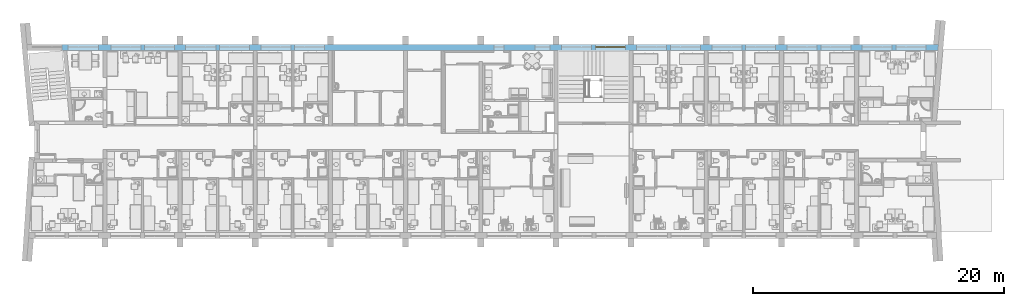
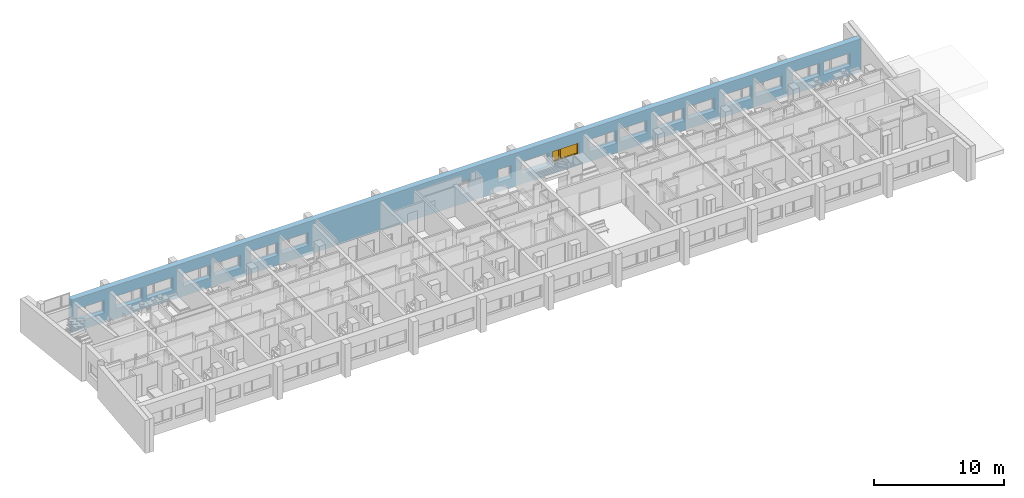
# One storey, part 23 of 172: 1 window, 19 openings, plus 1 element that does not belong to this part.
"""IFC2X3 building model written with IfcOpenShell, lengths in millimetres."""

import ifcopenshell
import ifcopenshell.guid

model = None  # the IFC model being written
_history = None  # IfcOwnerHistory: only IFC2X3 demands one
_inside = {}  # id of a spatial element -> (the spatial element, [elements in it])
_under = {}  # id of a project, library or spatial element -> (it, [spatial elements below it])
_declared = {}  # id of a project -> (the project, [libraries it declares])
_typed = {}  # id of a type object -> (the type object, [elements of that type])
_made_of = {}  # id of a material, layer set ... -> (it, [elements and type objects made of it])


def new_model(schema):
    """Start an empty IFC model of exactly this schema.

    Asked for "IFC4X3", IfcOpenShell would pick the latest addendum, in which some entities
    have other attributes; the version numbers below select the first issue.
    IFC2X3 requires an IfcOwnerHistory on every rooted entity: one is made here for all.
    """
    global model, _history
    if schema == "IFC4X3":
        model = ifcopenshell.file(schema_version=(4, 3, 0, 0))
    else:
        model = ifcopenshell.file(schema=schema)
    _inside.clear()
    _under.clear()
    _declared.clear()
    _typed.clear()
    _made_of.clear()
    _history = None
    if model.schema == "IFC2X3":
        org = make("IfcOrganization", Name="unknown")
        user = make(
            "IfcPersonAndOrganization",
            ThePerson=make("IfcPerson", FamilyName="unknown"),
            TheOrganization=org,
        )
        app = make(
            "IfcApplication",
            ApplicationDeveloper=org,
            Version="unknown",
            ApplicationFullName="unknown",
            ApplicationIdentifier="unknown",
        )
        _history = make(
            "IfcOwnerHistory",
            OwningUser=user,
            OwningApplication=app,
            ChangeAction="ADDED",
            CreationDate=0,
        )
    return model


def make(cls, **values):
    """One entity of the class cls with the attributes given. An attribute that is None is left unset."""
    return model.create_entity(
        cls, **{name: value for name, value in values.items() if value is not None}
    )


def entity(cls, *values):
    """Any entity or typed value of the class cls, its attributes in the order of the schema. None: left unset."""
    e = model.create_entity(cls)
    for i, value in enumerate(values):
        if value is not None:
            e[i] = value
    return e


def rooted(cls, **values):
    """An entity with a GlobalId (a new one), such as an element, a storey or a relation."""
    return make(cls, GlobalId=ifcopenshell.guid.new(), OwnerHistory=_history, **values)


def si_unit(unit_type, name, prefix=None):
    """IfcSIUnit, for example si_unit("LENGTHUNIT", "METRE", prefix="MILLI")."""
    return make("IfcSIUnit", UnitType=unit_type, Prefix=prefix, Name=name)


def converted_unit(unit_type, name, factor, base, dimensions=None, offset=None):
    """IfcConversionBasedUnit, such as the inch: factor (a typed value) times the base unit."""
    return make(
        "IfcConversionBasedUnit"
        if offset is None
        else "IfcConversionBasedUnitWithOffset",
        ConversionOffset=offset,
        Dimensions=None
        if dimensions is None
        else entity("IfcDimensionalExponents", *dimensions),
        UnitType=unit_type,
        Name=name,
        ConversionFactor=make(
            "IfcMeasureWithUnit", ValueComponent=factor, UnitComponent=base
        ),
    )


def money_unit(currency):
    """IfcMonetaryUnit."""
    return make("IfcMonetaryUnit", Currency=currency)


def assignment(units):
    """IfcUnitAssignment: the units of a project."""
    return None if units is None else make("IfcUnitAssignment", Units=units)


def point(xyz):
    """IfcCartesianPoint."""
    return None if xyz is None else make("IfcCartesianPoint", Coordinates=xyz)


def direction(xyz):
    """IfcDirection."""
    return None if xyz is None else make("IfcDirection", DirectionRatios=xyz)


def frame(location, z_axis=None, x_axis=None):
    """IfcAxis2Placement3D, a coordinate frame: its origin and axes. An axis left out is left unset."""
    return make(
        "IfcAxis2Placement3D",
        Location=point(location),
        Axis=direction(z_axis),
        RefDirection=direction(x_axis),
    )


def origin_with_axes():
    """The frame at (0, 0, 0) with the z axis (0, 0, 1) and the x axis (1, 0, 0) written out."""
    return frame((0.0, 0.0, 0.0), z_axis=(0.0, 0.0, 1.0), x_axis=(1.0, 0.0, 0.0))


def place(relative_to, where):
    """IfcLocalPlacement: puts the frame where relative to a parent placement (None: the world)."""
    return make(
        "IfcLocalPlacement", PlacementRelTo=relative_to, RelativePlacement=where
    )


def context(
    kind, dimensions, precision=None, world=None, true_north=None, identifier=None
):
    """IfcGeometricRepresentationContext, for example the 3D "Model" context."""
    return make(
        "IfcGeometricRepresentationContext",
        ContextIdentifier=identifier,
        ContextType=kind,
        CoordinateSpaceDimension=dimensions,
        Precision=precision,
        WorldCoordinateSystem=world,
        TrueNorth=true_north,
    )


def subcontext(parent, identifier, kind, view, scale=None):
    """IfcGeometricRepresentationSubContext, for example "Body" below "Model"."""
    return make(
        "IfcGeometricRepresentationSubContext",
        ContextIdentifier=identifier,
        ContextType=kind,
        ParentContext=parent,
        TargetScale=scale,
        TargetView=view,
    )


def project(units=None, contexts=None):
    """IfcProject with its units and contexts."""
    return rooted(
        "IfcProject",
        Name="project",
        RepresentationContexts=contexts,
        UnitsInContext=assignment(units),
    )


def spatial(cls, under=None, at=None, **own):
    """A site, building, storey or space (cls), placed at a placement, below another one or the project."""
    s = rooted(cls, ObjectPlacement=at, **own)
    if under is not None:
        _under.setdefault(under.id(), (under, []))[1].append(s)
    return s


def polyline(points):
    """IfcPolyline through the points."""
    return make("IfcPolyline", Points=[point(p) for p in points])


def outline(outer, holes=None, kind="AREA"):
    """IfcArbitraryClosedProfileDef: a profile drawn as a closed curve; with holes, ...WithVoids."""
    if holes is None:
        return make("IfcArbitraryClosedProfileDef", ProfileType=kind, OuterCurve=outer)
    return make(
        "IfcArbitraryProfileDefWithVoids",
        ProfileType=kind,
        OuterCurve=outer,
        InnerCurves=holes,
    )


def extrude(swept, where, along, depth):
    """IfcExtrudedAreaSolid: the profile swept, set in the frame where, extruded along a direction by depth."""
    return make(
        "IfcExtrudedAreaSolid",
        SweptArea=swept,
        Position=where,
        ExtrudedDirection=direction(along),
        Depth=depth,
    )


def faces_of(points, faces, orient=None, outer=None):
    """IfcFace entities. A face is a list of loops; a loop is a list of indices into points, from 0.

    orient and outer hold one flag for each loop. By default every Orientation is true, the
    first loop of a face is its IfcFaceOuterBound and the others are IfcFaceBound.
    """
    made = []
    for i, loops in enumerate(faces):
        bounds = []
        for j, loop in enumerate(loops):
            is_outer = j == 0 if outer is None else outer[i][j]
            bounds.append(
                make(
                    "IfcFaceOuterBound" if is_outer else "IfcFaceBound",
                    Bound=make("IfcPolyLoop", Polygon=[points[k] for k in loop]),
                    Orientation=True if orient is None else orient[i][j],
                )
            )
        made.append(make("IfcFace", Bounds=bounds))
    return made


def open_shell(faces, orient=None, outer=None):
    """The faces of one IfcOpenShell. surface_model builds it on its shared points."""
    return ("IfcOpenShell", faces, orient, outer)


def faceted_brep(points, faces, orient=None, outer=None, voids=None):
    """IfcFacetedBrep: a solid bounded by flat faces; with voids (closed shells), ...WithVoids."""
    shared = [point(p) for p in points]
    hull = make("IfcClosedShell", CfsFaces=faces_of(shared, faces, orient, outer))
    if voids is None:
        return make("IfcFacetedBrep", Outer=hull)
    return make(
        "IfcFacetedBrepWithVoids",
        Outer=hull,
        Voids=[
            make(cls, CfsFaces=faces_of(shared, fs, o, b)) for cls, fs, o, b in voids
        ],
    )


def surface_model(cls, points, shells):
    """IfcFaceBasedSurfaceModel or IfcShellBasedSurfaceModel (cls): surfaces that need not close."""
    shared = [point(p) for p in points]
    made = [make(c, CfsFaces=faces_of(shared, fs, o, b)) for c, fs, o, b in shells]
    if cls == "IfcFaceBasedSurfaceModel":
        return make(cls, FbsmFaces=made)
    return make(cls, SbsmBoundary=made)


def shape(context_of_items, identifier, shape_type, items):
    """IfcShapeRepresentation: the items that make up one representation, for example the "Body"."""
    return make(
        "IfcShapeRepresentation",
        ContextOfItems=context_of_items,
        RepresentationIdentifier=identifier,
        RepresentationType=shape_type,
        Items=items,
    )


def source(mapping_origin, context_of_items, identifier, shape_type, items):
    """IfcRepresentationMap: a shape defined once, which mapped items show again and again."""
    return make(
        "IfcRepresentationMap",
        MappingOrigin=mapping_origin,
        MappedRepresentation=shape(context_of_items, identifier, shape_type, items),
    )


def transform(
    local_origin,
    x_axis=None,
    y_axis=None,
    z_axis=None,
    scale=None,
    scale2=None,
    scale3=None,
    uniform=True,
):
    """IfcCartesianTransformationOperator3D, or its non-uniform kind. x_axis, y_axis, z_axis: its Axis1, 2, 3."""
    if uniform:
        return make(
            "IfcCartesianTransformationOperator3D",
            Axis1=direction(x_axis),
            Axis2=direction(y_axis),
            LocalOrigin=point(local_origin),
            Scale=scale,
            Axis3=direction(z_axis),
        )
    return make(
        "IfcCartesianTransformationOperator3DnonUniform",
        Axis1=direction(x_axis),
        Axis2=direction(y_axis),
        LocalOrigin=point(local_origin),
        Scale=scale,
        Axis3=direction(z_axis),
        Scale2=scale2,
        Scale3=scale3,
    )


def mapped(mapping_source, mapping_target):
    """IfcMappedItem: shows the shape of a source again, moved by a transform."""
    return make(
        "IfcMappedItem", MappingSource=mapping_source, MappingTarget=mapping_target
    )


def material(Name=None, Category=None):
    """IfcMaterial."""
    return make("IfcMaterial", Name=Name, Category=Category)


def material_list(materials):
    """IfcMaterialList."""
    return make("IfcMaterialList", Materials=materials)


def layer(
    of_material, thickness, ventilated=None, Name=None, Category=None, Priority=None
):
    """IfcMaterialLayer: one layer of a wall or slab, of a material (None: an air gap)."""
    return make(
        "IfcMaterialLayer",
        Material=of_material,
        LayerThickness=thickness,
        IsVentilated=ventilated,
        Name=Name,
        Category=Category,
        Priority=Priority,
    )


def layer_set(layers, Name=None):
    """IfcMaterialLayerSet."""
    return make("IfcMaterialLayerSet", MaterialLayers=layers, LayerSetName=Name)


def layer_usage(for_layer_set, set_direction, sense, offset, extent=None):
    """IfcMaterialLayerSetUsage: how a layer set lies in its element."""
    return make(
        "IfcMaterialLayerSetUsage",
        ForLayerSet=for_layer_set,
        LayerSetDirection=set_direction,
        DirectionSense=sense,
        OffsetFromReferenceLine=offset,
        ReferenceExtent=extent,
    )


def made_of(thing, what):
    """Note that an element or type object is made of a material, layer set ...; save() writes the relation."""
    if what is not None:
        _made_of.setdefault(what.id(), (what, []))[1].append(thing)
    return thing


def type_object(cls, material=None, **own):
    """A type object (cls), such as IfcWallType, which elements share."""
    return made_of(rooted(cls, **own), material)


def element(
    cls,
    number,
    at=None,
    inside=None,
    cuts=None,
    type_object=None,
    material=None,
    context=None,
    identifier="Body",
    shape_type=None,
    held_by="IfcProductDefinitionShape",
    body=None,
    shapes=None,
    **own,
):
    """One element of the class cls, such as IfcWall. Its Tag is "e" and its number.

    at: its placement. inside: the storey or other place that contains it. cuts: it is an
    opening in that element (IfcRelVoidsElement). A single representation is given by context,
    identifier, shape_type and body (its items); several are given by shapes. held_by: the class
    of the entity that holds the representations. save() writes the other relations.
    """
    e = rooted(cls, Tag="e%d" % number, ObjectPlacement=at, **own)
    if body is not None:
        shapes = [shape(context, identifier, shape_type, body)]
    if shapes is not None:
        e.Representation = make(held_by, Representations=shapes)
    if inside is not None:
        _inside.setdefault(inside.id(), (inside, []))[1].append(e)
    if cuts is not None:
        rooted(
            "IfcRelVoidsElement", RelatingBuildingElement=cuts, RelatedOpeningElement=e
        )
    if type_object is not None:
        _typed.setdefault(type_object.id(), (type_object, []))[1].append(e)
    return made_of(e, material)


def fill(opening, filler):
    """IfcRelFillsElement: the door or window that sits in an opening."""
    return rooted(
        "IfcRelFillsElement",
        RelatingOpeningElement=opening,
        RelatedBuildingElement=filler,
    )


def aggregate(whole, parts):
    """IfcRelAggregates: a whole, such as a stair, and the parts it consists of."""
    return rooted("IfcRelAggregates", RelatingObject=whole, RelatedObjects=parts)


def save(model, path):
    """Write the relations noted so far, then the file.

    IfcRelAggregates (storeys below a building ...), IfcRelContainedInSpatialStructure (elements
    in a storey), IfcRelDefinesByType, IfcRelAssociatesMaterial and IfcRelDeclares: one each for
    every whole, place, type object, material and project.
    """
    for whole, parts in _under.values():
        aggregate(whole, parts)
    for where, things in _inside.values():
        rooted(
            "IfcRelContainedInSpatialStructure",
            RelatedElements=things,
            RelatingStructure=where,
        )
    for kind, things in _typed.values():
        rooted("IfcRelDefinesByType", RelatedObjects=things, RelatingType=kind)
    for what, things in _made_of.values():
        rooted("IfcRelAssociatesMaterial", RelatedObjects=things, RelatingMaterial=what)
    for by, libraries in _declared.values():
        rooted("IfcRelDeclares", RelatingContext=by, RelatedDefinitions=libraries)
    model.write(path)


model = new_model("IFC2X3")

# Units and contexts
model_context = context("Model", 3, precision=1e-05, world=origin_with_axes(), true_north=direction((0.0, 1.0)))
body_context = subcontext(model_context, "Body", "Model", "MODEL_VIEW")
ifc_project = project(units=[si_unit("LENGTHUNIT", "METRE", prefix="MILLI"), si_unit("AREAUNIT", "SQUARE_METRE"), si_unit("VOLUMEUNIT", "CUBIC_METRE"), converted_unit("PLANEANGLEUNIT", "DEGREE", entity("IfcPlaneAngleMeasure", 0.0174532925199), si_unit("PLANEANGLEUNIT", "RADIAN"), dimensions=[0, 0, 0, 0, 0, 0, 0]), si_unit("SOLIDANGLEUNIT", "STERADIAN"), money_unit("USD"), converted_unit("TIMEUNIT", "Year", entity("IfcTimeMeasure", 31556926.0), si_unit("TIMEUNIT", "SECOND"), dimensions=[0, 0, 0, 0, 0, 0, 0]), si_unit("MASSUNIT", "GRAM"), si_unit("THERMODYNAMICTEMPERATUREUNIT", "DEGREE_CELSIUS"), si_unit("LUMINOUSINTENSITYUNIT", "LUMEN")], contexts=[model_context])

# Site, building, storey
site_placement = place(None, origin_with_axes())
site = spatial("IfcSite", under=ifc_project, at=site_placement, Name="Site", CompositionType="ELEMENT")
building_placement = place(site_placement, origin_with_axes())
building = spatial("IfcBuilding", under=site, at=building_placement, Name="Building", CompositionType="ELEMENT")
storey_placement = place(building_placement, frame((0.0, 0.0, 3200.0), z_axis=(0.0, 0.0, 1.0), x_axis=(1.0, 0.0, 0.0)))
storey = spatial("IfcBuildingStorey", under=building, at=storey_placement, Name="3KORRUS", CompositionType="ELEMENT", Elevation=3200.0)

# Wall, openings, window
ifc_material_1 = material(Name="Olemasolevad seinad tellis, uus viimistlus")
ifc_layer = layer(ifc_material_1, 500.0, ventilated="UNKNOWN")
ifc_layer_set = layer_set([ifc_layer], Name="Olemasolevad seinad tellis, uus viimistlus 500")
ifc_layer_usage = layer_usage(ifc_layer_set, "AXIS2", "POSITIVE", -100.0)
wall_type = type_object("IfcWallType", Name="Olemasolevad seinad tellis, uus viimistlus 500", PredefinedType="NOTDEFINED")
wall_placement = place(storey_placement, frame((-51569.3388124, -5039.6041088, 0.0), z_axis=(0.0, 0.0, 1.0), x_axis=(1.0, 0.0, 0.0)))
wall = element("IfcWallStandardCase", 1, at=wall_placement, inside=storey, type_object=wall_type, material=ifc_layer_usage, Name="VS1", ObjectType="VS1", context=body_context, shape_type="SweptSolid", body=[
    extrude(outline(polyline([(0.0, -100.0), (69914.7195482, -100.0), (69959.6995146, 400.0), (0.0, 400.0), (0.0, -100.0)])), origin_with_axes(), (0.0, 0.0, 1.0), 3100.0),
])
opening_1_placement = place(wall_placement, frame((34879.0421091, 0.0, 900.0), z_axis=(0.0, 0.0, 1.0), x_axis=(1.0, 0.0, 0.0)))
element("IfcOpeningElement", 2, at=opening_1_placement, cuts=wall, Name="WD - 001", context=body_context, shape_type="SweptSolid", body=[
    extrude(outline(polyline([(-400.0, 1200.0), (-400.0, 0.0), (400.0, 0.0), (400.0, 1200.0), (-400.0, 1200.0)])), frame((0.0, 200.0, 0.0), z_axis=(0.0, -1.0, 0.0), x_axis=(1.0, 0.0, 0.0)), (0.0, 0.0, 1.0), 800.0),
    extrude(outline(polyline([(-400.0, 0.0), (-400.0, -1200.0), (400.0, -1200.0), (400.0, 0.0), (-400.0, 0.0)])), frame((0.0, 200.0, 0.0), z_axis=(0.0, 1.0, 0.0), x_axis=(1.0, 0.0, 0.0)), (0.0, 0.0, 1.0), 700.0),
])
opening_2_placement = place(wall_placement, frame((38352.6323068, 0.0, 900.0), z_axis=(0.0, 0.0, 1.0), x_axis=(1.0, 0.0, 0.0)))
element("IfcOpeningElement", 3, at=opening_2_placement, cuts=wall, Name="A3", context=body_context, shape_type="SweptSolid", body=[
    extrude(outline(polyline([(-600.0, 1200.0), (-600.0, 0.0), (600.0, 0.0), (600.0, 1200.0), (-600.0, 1200.0)])), frame((0.0, 200.0, 0.0), z_axis=(0.0, -1.0, 0.0), x_axis=(1.0, 0.0, 0.0)), (0.0, 0.0, 1.0), 800.0),
    extrude(outline(polyline([(-600.0, 0.0), (-600.0, -1200.0), (600.0, -1200.0), (600.0, 0.0), (-600.0, 0.0)])), frame((0.0, 200.0, 0.0), z_axis=(0.0, 1.0, 0.0), x_axis=(1.0, 0.0, 0.0)), (0.0, 0.0, 1.0), 700.0),
])
opening_3_placement = place(wall_placement, frame((1700.0, 0.0, 900.0), z_axis=(0.0, 0.0, 1.0), x_axis=(1.0, 0.0, 0.0)))
element("IfcOpeningElement", 4, at=opening_3_placement, cuts=wall, Name="A1", context=body_context, shape_type="SweptSolid", body=[
    extrude(outline(polyline([(1200.0, 1200.0), (-1200.0, 1200.0), (-1200.0, 0.0), (1200.0, 0.0), (1200.0, 1200.0)])), frame((0.0, 200.0, 0.0), z_axis=(0.0, -1.0, 0.0), x_axis=(1.0, 0.0, 0.0)), (0.0, 0.0, 1.0), 800.0),
    extrude(outline(polyline([(1200.0, 0.0), (-1200.0, 0.0), (-1200.0, -1200.0), (1200.0, -1200.0), (1200.0, 0.0)])), frame((0.0, 200.0, 0.0), z_axis=(0.0, 1.0, 0.0), x_axis=(1.0, 0.0, 0.0)), (0.0, 0.0, 1.0), 700.0),
])
opening_4_placement = place(wall_placement, frame((7795.91085613, 0.0, 900.0), z_axis=(0.0, 0.0, 1.0), x_axis=(1.0, 0.0, 0.0)))
element("IfcOpeningElement", 5, at=opening_4_placement, cuts=wall, Name="A1", context=body_context, shape_type="SweptSolid", body=[
    extrude(outline(polyline([(1200.0, 1200.0), (-1200.0, 1200.0), (-1200.0, 0.0), (1200.0, 0.0), (1200.0, 1200.0)])), frame((0.0, 200.0, 0.0), z_axis=(0.0, -1.0, 0.0), x_axis=(1.0, 0.0, 0.0)), (0.0, 0.0, 1.0), 800.0),
    extrude(outline(polyline([(1200.0, 0.0), (-1200.0, 0.0), (-1200.0, -1200.0), (1200.0, -1200.0), (1200.0, 0.0)])), frame((0.0, 200.0, 0.0), z_axis=(0.0, 1.0, 0.0), x_axis=(1.0, 0.0, 0.0)), (0.0, 0.0, 1.0), 700.0),
])
opening_5_placement = place(wall_placement, frame((5095.91085613, 0.0, 900.0), z_axis=(0.0, 0.0, 1.0), x_axis=(1.0, 0.0, 0.0)))
element("IfcOpeningElement", 6, at=opening_5_placement, cuts=wall, Name="A2", context=body_context, shape_type="SweptSolid", body=[
    extrude(outline(polyline([(-1200.0, 1200.0), (-1200.0, 0.0), (1200.0, 0.0), (1200.0, 1200.0), (-1200.0, 1200.0)])), frame((0.0, 200.0, 0.0), z_axis=(0.0, -1.0, 0.0), x_axis=(1.0, 0.0, 0.0)), (0.0, 0.0, 1.0), 800.0),
    extrude(outline(polyline([(-1200.0, 0.0), (-1200.0, -1200.0), (1200.0, -1200.0), (1200.0, 0.0), (-1200.0, 0.0)])), frame((0.0, 200.0, 0.0), z_axis=(0.0, 1.0, 0.0), x_axis=(1.0, 0.0, 0.0)), (0.0, 0.0, 1.0), 700.0),
])
opening_6_placement = place(wall_placement, frame((13779.0421091, 0.0, 900.0), z_axis=(0.0, 0.0, 1.0), x_axis=(1.0, 0.0, 0.0)))
element("IfcOpeningElement", 7, at=opening_6_placement, cuts=wall, Name="A1", context=body_context, shape_type="SweptSolid", body=[
    extrude(outline(polyline([(1200.0, 1200.0), (-1200.0, 1200.0), (-1200.0, 0.0), (1200.0, 0.0), (1200.0, 1200.0)])), frame((0.0, 200.0, 0.0), z_axis=(0.0, -1.0, 0.0), x_axis=(1.0, 0.0, 0.0)), (0.0, 0.0, 1.0), 800.0),
    extrude(outline(polyline([(1200.0, 0.0), (-1200.0, 0.0), (-1200.0, -1200.0), (1200.0, -1200.0), (1200.0, 0.0)])), frame((0.0, 200.0, 0.0), z_axis=(0.0, 1.0, 0.0), x_axis=(1.0, 0.0, 0.0)), (0.0, 0.0, 1.0), 700.0),
])
opening_7_placement = place(wall_placement, frame((11079.0421091, 0.0, 900.0), z_axis=(0.0, 0.0, 1.0), x_axis=(1.0, 0.0, 0.0)))
element("IfcOpeningElement", 8, at=opening_7_placement, cuts=wall, Name="A2", context=body_context, shape_type="SweptSolid", body=[
    extrude(outline(polyline([(-1200.0, 1200.0), (-1200.0, 0.0), (1200.0, 0.0), (1200.0, 1200.0), (-1200.0, 1200.0)])), frame((0.0, 200.0, 0.0), z_axis=(0.0, -1.0, 0.0), x_axis=(1.0, 0.0, 0.0)), (0.0, 0.0, 1.0), 800.0),
    extrude(outline(polyline([(-1200.0, 0.0), (-1200.0, -1200.0), (1200.0, -1200.0), (1200.0, 0.0), (-1200.0, 0.0)])), frame((0.0, 200.0, 0.0), z_axis=(0.0, 1.0, 0.0), x_axis=(1.0, 0.0, 0.0)), (0.0, 0.0, 1.0), 700.0),
])
opening_8_placement = place(wall_placement, frame((43769.0421091, 0.0, 900.0), z_axis=(0.0, 0.0, 1.0), x_axis=(1.0, 0.0, 0.0)))
opening_8 = element("IfcOpeningElement", 9, at=opening_8_placement, cuts=wall, Name="A1", context=body_context, shape_type="SweptSolid", body=[
    extrude(outline(polyline([(1200.0, 1200.0), (-1200.0, 1200.0), (-1200.0, 0.0), (1200.0, 0.0), (1200.0, 1200.0)])), frame((0.0, 200.0, 0.0), z_axis=(0.0, -1.0, 0.0), x_axis=(1.0, 0.0, 0.0)), (0.0, 0.0, 1.0), 800.0),
    extrude(outline(polyline([(1200.0, 0.0), (-1200.0, 0.0), (-1200.0, -1200.0), (1200.0, -1200.0), (1200.0, 0.0)])), frame((0.0, 200.0, 0.0), z_axis=(0.0, 1.0, 0.0), x_axis=(1.0, 0.0, 0.0)), (0.0, 0.0, 1.0), 700.0),
])
opening_9_placement = place(wall_placement, frame((41069.0421091, 0.0, 900.0), z_axis=(0.0, 0.0, 1.0), x_axis=(1.0, 0.0, 0.0)))
element("IfcOpeningElement", 10, at=opening_9_placement, cuts=wall, Name="A2", context=body_context, shape_type="SweptSolid", body=[
    extrude(outline(polyline([(-1200.0, 1200.0), (-1200.0, 0.0), (1200.0, 0.0), (1200.0, 1200.0), (-1200.0, 1200.0)])), frame((0.0, 200.0, 0.0), z_axis=(0.0, -1.0, 0.0), x_axis=(1.0, 0.0, 0.0)), (0.0, 0.0, 1.0), 800.0),
    extrude(outline(polyline([(-1200.0, 0.0), (-1200.0, -1200.0), (1200.0, -1200.0), (1200.0, 0.0), (-1200.0, 0.0)])), frame((0.0, 200.0, 0.0), z_axis=(0.0, 1.0, 0.0), x_axis=(1.0, 0.0, 0.0)), (0.0, 0.0, 1.0), 700.0),
])
opening_10_placement = place(wall_placement, frame((49769.0421091, 0.0, 900.0), z_axis=(0.0, 0.0, 1.0), x_axis=(1.0, 0.0, 0.0)))
element("IfcOpeningElement", 11, at=opening_10_placement, cuts=wall, Name="A1", context=body_context, shape_type="SweptSolid", body=[
    extrude(outline(polyline([(1200.0, 1200.0), (-1200.0, 1200.0), (-1200.0, 0.0), (1200.0, 0.0), (1200.0, 1200.0)])), frame((0.0, 200.0, 0.0), z_axis=(0.0, -1.0, 0.0), x_axis=(1.0, 0.0, 0.0)), (0.0, 0.0, 1.0), 800.0),
    extrude(outline(polyline([(1200.0, 0.0), (-1200.0, 0.0), (-1200.0, -1200.0), (1200.0, -1200.0), (1200.0, 0.0)])), frame((0.0, 200.0, 0.0), z_axis=(0.0, 1.0, 0.0), x_axis=(1.0, 0.0, 0.0)), (0.0, 0.0, 1.0), 700.0),
])
opening_11_placement = place(wall_placement, frame((47069.0421091, 0.0, 900.0), z_axis=(0.0, 0.0, 1.0), x_axis=(1.0, 0.0, 0.0)))
element("IfcOpeningElement", 12, at=opening_11_placement, cuts=wall, Name="A2", context=body_context, shape_type="SweptSolid", body=[
    extrude(outline(polyline([(-1200.0, 1200.0), (-1200.0, 0.0), (1200.0, 0.0), (1200.0, 1200.0), (-1200.0, 1200.0)])), frame((0.0, 200.0, 0.0), z_axis=(0.0, -1.0, 0.0), x_axis=(1.0, 0.0, 0.0)), (0.0, 0.0, 1.0), 800.0),
    extrude(outline(polyline([(-1200.0, 0.0), (-1200.0, -1200.0), (1200.0, -1200.0), (1200.0, 0.0), (-1200.0, 0.0)])), frame((0.0, 200.0, 0.0), z_axis=(0.0, 1.0, 0.0), x_axis=(1.0, 0.0, 0.0)), (0.0, 0.0, 1.0), 700.0),
])
opening_12_placement = place(wall_placement, frame((55769.0421091, 0.0, 900.0), z_axis=(0.0, 0.0, 1.0), x_axis=(1.0, 0.0, 0.0)))
element("IfcOpeningElement", 13, at=opening_12_placement, cuts=wall, Name="A1", context=body_context, shape_type="SweptSolid", body=[
    extrude(outline(polyline([(1200.0, 1200.0), (-1200.0, 1200.0), (-1200.0, 0.0), (1200.0, 0.0), (1200.0, 1200.0)])), frame((0.0, 200.0, 0.0), z_axis=(0.0, -1.0, 0.0), x_axis=(1.0, 0.0, 0.0)), (0.0, 0.0, 1.0), 800.0),
    extrude(outline(polyline([(1200.0, 0.0), (-1200.0, 0.0), (-1200.0, -1200.0), (1200.0, -1200.0), (1200.0, 0.0)])), frame((0.0, 200.0, 0.0), z_axis=(0.0, 1.0, 0.0), x_axis=(1.0, 0.0, 0.0)), (0.0, 0.0, 1.0), 700.0),
])
opening_13_placement = place(wall_placement, frame((53069.0421091, 0.0, 900.0), z_axis=(0.0, 0.0, 1.0), x_axis=(1.0, 0.0, 0.0)))
element("IfcOpeningElement", 14, at=opening_13_placement, cuts=wall, Name="A2", context=body_context, shape_type="SweptSolid", body=[
    extrude(outline(polyline([(-1200.0, 1200.0), (-1200.0, 0.0), (1200.0, 0.0), (1200.0, 1200.0), (-1200.0, 1200.0)])), frame((0.0, 200.0, 0.0), z_axis=(0.0, -1.0, 0.0), x_axis=(1.0, 0.0, 0.0)), (0.0, 0.0, 1.0), 800.0),
    extrude(outline(polyline([(-1200.0, 0.0), (-1200.0, -1200.0), (1200.0, -1200.0), (1200.0, 0.0), (-1200.0, 0.0)])), frame((0.0, 200.0, 0.0), z_axis=(0.0, 1.0, 0.0), x_axis=(1.0, 0.0, 0.0)), (0.0, 0.0, 1.0), 700.0),
])
opening_14_placement = place(wall_placement, frame((61769.0421091, 0.0, 900.0), z_axis=(0.0, 0.0, 1.0), x_axis=(1.0, 0.0, 0.0)))
element("IfcOpeningElement", 15, at=opening_14_placement, cuts=wall, Name="A1", context=body_context, shape_type="SweptSolid", body=[
    extrude(outline(polyline([(1200.0, 1200.0), (-1200.0, 1200.0), (-1200.0, 0.0), (1200.0, 0.0), (1200.0, 1200.0)])), frame((0.0, 200.0, 0.0), z_axis=(0.0, -1.0, 0.0), x_axis=(1.0, 0.0, 0.0)), (0.0, 0.0, 1.0), 800.0),
    extrude(outline(polyline([(1200.0, 0.0), (-1200.0, 0.0), (-1200.0, -1200.0), (1200.0, -1200.0), (1200.0, 0.0)])), frame((0.0, 200.0, 0.0), z_axis=(0.0, 1.0, 0.0), x_axis=(1.0, 0.0, 0.0)), (0.0, 0.0, 1.0), 700.0),
])
opening_15_placement = place(wall_placement, frame((59069.0421091, 0.0, 900.0), z_axis=(0.0, 0.0, 1.0), x_axis=(1.0, 0.0, 0.0)))
element("IfcOpeningElement", 16, at=opening_15_placement, cuts=wall, Name="A2", context=body_context, shape_type="SweptSolid", body=[
    extrude(outline(polyline([(-1200.0, 1200.0), (-1200.0, 0.0), (1200.0, 0.0), (1200.0, 1200.0), (-1200.0, 1200.0)])), frame((0.0, 200.0, 0.0), z_axis=(0.0, -1.0, 0.0), x_axis=(1.0, 0.0, 0.0)), (0.0, 0.0, 1.0), 800.0),
    extrude(outline(polyline([(-1200.0, 0.0), (-1200.0, -1200.0), (1200.0, -1200.0), (1200.0, 0.0), (-1200.0, 0.0)])), frame((0.0, 200.0, 0.0), z_axis=(0.0, 1.0, 0.0), x_axis=(1.0, 0.0, 0.0)), (0.0, 0.0, 1.0), 700.0),
])
opening_16_placement = place(wall_placement, frame((67773.3244043, 0.0, 900.0), z_axis=(0.0, 0.0, 1.0), x_axis=(1.0, 0.0, 0.0)))
element("IfcOpeningElement", 17, at=opening_16_placement, cuts=wall, Name="A1", context=body_context, shape_type="SweptSolid", body=[
    extrude(outline(polyline([(1200.0, 1200.0), (-1200.0, 1200.0), (-1200.0, 0.0), (1200.0, 0.0), (1200.0, 1200.0)])), frame((0.0, 200.0, 0.0), z_axis=(0.0, -1.0, 0.0), x_axis=(1.0, 0.0, 0.0)), (0.0, 0.0, 1.0), 800.0),
    extrude(outline(polyline([(1200.0, 0.0), (-1200.0, 0.0), (-1200.0, -1200.0), (1200.0, -1200.0), (1200.0, 0.0)])), frame((0.0, 200.0, 0.0), z_axis=(0.0, 1.0, 0.0), x_axis=(1.0, 0.0, 0.0)), (0.0, 0.0, 1.0), 700.0),
])
opening_17_placement = place(wall_placement, frame((65073.3244043, 0.0, 900.0), z_axis=(0.0, 0.0, 1.0), x_axis=(1.0, 0.0, 0.0)))
element("IfcOpeningElement", 18, at=opening_17_placement, cuts=wall, Name="A2", context=body_context, shape_type="SweptSolid", body=[
    extrude(outline(polyline([(-1200.0, 1200.0), (-1200.0, 0.0), (1200.0, 0.0), (1200.0, 1200.0), (-1200.0, 1200.0)])), frame((0.0, 200.0, 0.0), z_axis=(0.0, -1.0, 0.0), x_axis=(1.0, 0.0, 0.0)), (0.0, 0.0, 1.0), 800.0),
    extrude(outline(polyline([(-1200.0, 0.0), (-1200.0, -1200.0), (1200.0, -1200.0), (1200.0, 0.0), (-1200.0, 0.0)])), frame((0.0, 200.0, 0.0), z_axis=(0.0, 1.0, 0.0), x_axis=(1.0, 0.0, 0.0)), (0.0, 0.0, 1.0), 700.0),
])
opening_18_placement = place(wall_placement, frame((19767.4765851, 0.0, 900.0), z_axis=(0.0, 0.0, 1.0), x_axis=(1.0, 0.0, 0.0)))
element("IfcOpeningElement", 19, at=opening_18_placement, cuts=wall, Name="A1", context=body_context, shape_type="SweptSolid", body=[
    extrude(outline(polyline([(1200.0, 1200.0), (-1200.0, 1200.0), (-1200.0, 0.0), (1200.0, 0.0), (1200.0, 1200.0)])), frame((0.0, 200.0, 0.0), z_axis=(0.0, -1.0, 0.0), x_axis=(1.0, 0.0, 0.0)), (0.0, 0.0, 1.0), 800.0),
    extrude(outline(polyline([(1200.0, 0.0), (-1200.0, 0.0), (-1200.0, -1200.0), (1200.0, -1200.0), (1200.0, 0.0)])), frame((0.0, 200.0, 0.0), z_axis=(0.0, 1.0, 0.0), x_axis=(1.0, 0.0, 0.0)), (0.0, 0.0, 1.0), 700.0),
])
opening_19_placement = place(wall_placement, frame((17067.4765851, 0.0, 900.0), z_axis=(0.0, 0.0, 1.0), x_axis=(1.0, 0.0, 0.0)))
element("IfcOpeningElement", 20, at=opening_19_placement, cuts=wall, Name="A2", context=body_context, shape_type="SweptSolid", body=[
    extrude(outline(polyline([(-1200.0, 1200.0), (-1200.0, 0.0), (1200.0, 0.0), (1200.0, 1200.0), (-1200.0, 1200.0)])), frame((0.0, 200.0, 0.0), z_axis=(0.0, -1.0, 0.0), x_axis=(1.0, 0.0, 0.0)), (0.0, 0.0, 1.0), 800.0),
    extrude(outline(polyline([(-1200.0, 0.0), (-1200.0, -1200.0), (1200.0, -1200.0), (1200.0, 0.0), (-1200.0, 0.0)])), frame((0.0, 200.0, 0.0), z_axis=(0.0, 1.0, 0.0), x_axis=(1.0, 0.0, 0.0)), (0.0, 0.0, 1.0), 700.0),
])
ifc_material_2 = material(Name="Background")
ifc_material_list = material_list([ifc_material_2])
window_style = type_object("IfcWindowStyle", Name="Double Window 19", ConstructionType="NOTDEFINED", OperationType="DOUBLE_PANEL_VERTICAL", ParameterTakesPrecedence=False, Sizeable=False)
shared_shape = source(origin_with_axes(), body_context, "Body", "SurfaceModel", [
    faceted_brep([(1175.0, -200.0, 1150.0), (1175.0, -225.0, 1150.0), (1150.0, -225.0, 1150.0), (1150.0, -250.0, 1150.0), (1200.0, -250.0, 1150.0), (1200.0, -200.0, 1150.0), (1175.0, -200.0, 50.0), (1175.0, -225.0, 50.0), (1150.0, -225.0, 50.0), (1150.0, -250.0, 50.0), (1200.0, -250.0, 50.0), (1200.0, -200.0, 50.0)], [[[0, 1, 2, 3, 4, 5]], [[1, 0, 6, 7]], [[8, 2, 1, 7]], [[2, 8, 9, 3]], [[4, 3, 9, 10]], [[5, 4, 10, 11]], [[6, 0, 5, 11]], [[7, 6, 11, 10, 9, 8]]]),
    faceted_brep([(-1150.0, -225.0, 1150.0), (-1175.0, -225.0, 1150.0), (-1175.0, -200.0, 1150.0), (-1200.0, -200.0, 1150.0), (-1200.0, -250.0, 1150.0), (-1150.0, -250.0, 1150.0), (-1150.0, -225.0, 50.0), (-1175.0, -225.0, 50.0), (-1175.0, -200.0, 50.0), (-1200.0, -200.0, 50.0), (-1200.0, -250.0, 50.0), (-1150.0, -250.0, 50.0)], [[[0, 1, 2, 3, 4, 5]], [[1, 0, 6, 7]], [[8, 2, 1, 7]], [[2, 8, 9, 3]], [[9, 10, 4, 3]], [[10, 11, 5, 4]], [[6, 0, 5, 11]], [[7, 6, 11, 10, 9, 8]]]),
    faceted_brep([(-350.0, -225.0, 1150.0), (-375.0, -225.0, 1150.0), (-375.0, -200.0, 1150.0), (-425.0, -200.0, 1150.0), (-425.0, -225.0, 1150.0), (-450.0, -225.0, 1150.0), (-450.0, -250.0, 1150.0), (-350.0, -250.0, 1150.0), (-350.0, -225.0, 50.0), (-375.0, -225.0, 50.0), (-375.0, -200.0, 50.0), (-425.0, -200.0, 50.0), (-425.0, -225.0, 50.0), (-450.0, -225.0, 50.0), (-450.0, -250.0, 50.0), (-350.0, -250.0, 50.0)], [[[0, 1, 2, 3, 4, 5, 6, 7]], [[1, 0, 8, 9]], [[10, 2, 1, 9]], [[2, 10, 11, 3]], [[4, 3, 11, 12]], [[13, 5, 4, 12]], [[5, 13, 14, 6]], [[14, 15, 7, 6]], [[8, 0, 7, 15]], [[9, 8, 15, 14, 13, 12, 11, 10]]]),
    faceted_brep([(-350.0, -225.0, 50.0), (-375.0, -225.0, 50.0), (-375.0, -200.0, 50.0), (-425.0, -200.0, 50.0), (-425.0, -225.0, 50.0), (-450.0, -225.0, 50.0), (-450.0, -250.0, 50.0), (-350.0, -250.0, 50.0), (1150.0, -225.0, 50.0), (1175.0, -225.0, 50.0), (1175.0, -225.0, 25.0), (-375.0, -225.0, 25.0), (-375.0, -200.0, 25.0), (1175.0, -200.0, 25.0), (1175.0, -200.0, 50.0), (1200.0, -200.0, 50.0), (1200.0, -200.0, 0.0), (-1200.0, -200.0, 0.0), (-1200.0, -200.0, 50.0), (-1175.0, -200.0, 50.0), (-1175.0, -200.0, 25.0), (-425.0, -200.0, 25.0), (-425.0, -225.0, 25.0), (-1175.0, -225.0, 50.0), (-1150.0, -225.0, 50.0), (-1175.0, -225.0, 25.0), (-1150.0, -250.0, 50.0), (1200.0, -250.0, 50.0), (1150.0, -250.0, 50.0), (-1200.0, -250.0, 50.0), (-1200.0, -250.0, 0.0), (1200.0, -250.0, 0.0)], [[[0, 1, 2, 3, 4, 5, 6, 7]], [[1, 0, 8, 9, 10, 11]], [[12, 2, 1, 11]], [[13, 14, 15, 16, 17, 18, 19, 20, 21, 3, 2, 12]], [[4, 3, 21, 22]], [[23, 24, 5, 4, 22, 25]], [[5, 24, 26, 6]], [[27, 28, 7, 6, 26, 29, 30, 31]], [[8, 0, 7, 28]], [[9, 8, 28, 27, 15, 14]], [[9, 14, 13, 10]], [[13, 12, 11, 10]], [[15, 27, 31, 16]], [[16, 31, 30, 17]], [[17, 30, 29, 18]], [[24, 23, 19, 18, 29, 26]], [[20, 19, 23, 25]], [[21, 20, 25, 22]]]),
    faceted_brep([(1175.0, -200.0, 1150.0), (1175.0, -200.0, 1175.0), (-375.0, -200.0, 1175.0), (-375.0, -200.0, 1150.0), (-425.0, -200.0, 1150.0), (-425.0, -200.0, 1175.0), (-1175.0, -200.0, 1175.0), (-1175.0, -200.0, 1150.0), (-1200.0, -200.0, 1150.0), (-1200.0, -200.0, 1200.0), (1200.0, -200.0, 1200.0), (1200.0, -200.0, 1150.0), (1175.0, -225.0, 1150.0), (1175.0, -225.0, 1175.0), (-375.0, -225.0, 1175.0), (-375.0, -225.0, 1150.0), (-350.0, -225.0, 1150.0), (-350.0, -250.0, 1150.0), (-450.0, -250.0, 1150.0), (-450.0, -225.0, 1150.0), (-425.0, -225.0, 1150.0), (-425.0, -225.0, 1175.0), (-1175.0, -225.0, 1175.0), (-1175.0, -225.0, 1150.0), (-1150.0, -225.0, 1150.0), (-1150.0, -250.0, 1150.0), (-1200.0, -250.0, 1150.0), (-1200.0, -250.0, 1200.0), (1200.0, -250.0, 1200.0), (1200.0, -250.0, 1150.0), (1150.0, -250.0, 1150.0), (1150.0, -225.0, 1150.0)], [[[0, 1, 2, 3, 4, 5, 6, 7, 8, 9, 10, 11]], [[1, 0, 12, 13]], [[2, 1, 13, 14]], [[3, 2, 14, 15]], [[15, 16, 17, 18, 19, 20, 4, 3]], [[5, 4, 20, 21]], [[6, 5, 21, 22]], [[7, 6, 22, 23]], [[23, 24, 25, 26, 8, 7]], [[8, 26, 27, 9]], [[9, 27, 28, 10]], [[10, 28, 29, 11]], [[12, 0, 11, 29, 30, 31]], [[16, 15, 14, 13, 12, 31]], [[16, 31, 30, 17]], [[18, 17, 30, 29, 28, 27, 26, 25]], [[24, 19, 18, 25]], [[24, 23, 22, 21, 20, 19]]]),
    faceted_brep([(1125.0, -225.0, 1125.0), (1175.0, -225.0, 1125.0), (1175.0, -175.0, 1125.0), (1125.0, -175.0, 1125.0), (1125.0, -225.0, 75.0), (1175.0, -225.0, 75.0), (1175.0, -175.0, 75.0), (1125.0, -175.0, 75.0)], [[[0, 1, 2, 3]], [[0, 4, 5, 1]], [[1, 5, 6, 2]], [[3, 2, 6, 7]], [[4, 0, 3, 7]], [[5, 4, 7, 6]]]),
    faceted_brep([(-325.0, -225.0, 75.0), (-375.0, -225.0, 75.0), (-375.0, -175.0, 75.0), (-325.0, -175.0, 75.0), (-325.0, -225.0, 1125.0), (-375.0, -225.0, 1125.0), (-375.0, -175.0, 1125.0), (-325.0, -175.0, 1125.0)], [[[0, 1, 2, 3]], [[0, 4, 5, 1]], [[1, 5, 6, 2]], [[3, 2, 6, 7]], [[4, 0, 3, 7]], [[5, 4, 7, 6]]]),
    faceted_brep([(-375.0, -225.0, 25.0), (-375.0, -225.0, 75.0), (-375.0, -175.0, 75.0), (-375.0, -175.0, 25.0), (1175.0, -225.0, 25.0), (1175.0, -225.0, 75.0), (1125.0, -225.0, 75.0), (-325.0, -225.0, 75.0), (-325.0, -175.0, 75.0), (1125.0, -175.0, 75.0), (1175.0, -175.0, 75.0), (1175.0, -175.0, 25.0)], [[[0, 1, 2, 3]], [[0, 4, 5, 6, 7, 1]], [[1, 7, 8, 2]], [[3, 2, 8, 9, 10, 11]], [[4, 0, 3, 11]], [[5, 4, 11, 10]], [[6, 5, 10, 9]], [[7, 6, 9, 8]]]),
    faceted_brep([(1175.0, -225.0, 1175.0), (1175.0, -225.0, 1125.0), (1175.0, -175.0, 1125.0), (1175.0, -175.0, 1175.0), (-375.0, -225.0, 1175.0), (-375.0, -225.0, 1125.0), (-325.0, -225.0, 1125.0), (1125.0, -225.0, 1125.0), (1125.0, -175.0, 1125.0), (-325.0, -175.0, 1125.0), (-375.0, -175.0, 1125.0), (-375.0, -175.0, 1175.0)], [[[0, 1, 2, 3]], [[0, 4, 5, 6, 7, 1]], [[1, 7, 8, 2]], [[3, 2, 8, 9, 10, 11]], [[4, 0, 3, 11]], [[5, 4, 11, 10]], [[6, 5, 10, 9]], [[7, 6, 9, 8]]]),
    surface_model("IfcShellBasedSurfaceModel", [(1125.0, -210.0, 75.0), (1125.0, -210.0, 1125.0), (-325.0, -210.0, 1125.0), (-325.0, -210.0, 75.0)], [open_shell([[[0, 1, 2, 3]]])]),
    surface_model("IfcShellBasedSurfaceModel", [(1125.0, -190.0, 75.0), (-325.0, -190.0, 75.0), (-325.0, -190.0, 1125.0), (1125.0, -190.0, 1125.0)], [open_shell([[[0, 1, 2, 3]]])]),
    faceted_brep([(-475.0, -225.0, 1125.0), (-425.0, -225.0, 1125.0), (-425.0, -175.0, 1125.0), (-475.0, -175.0, 1125.0), (-475.0, -225.0, 75.0), (-425.0, -225.0, 75.0), (-425.0, -175.0, 75.0), (-475.0, -175.0, 75.0)], [[[0, 1, 2, 3]], [[0, 4, 5, 1]], [[1, 5, 6, 2]], [[3, 2, 6, 7]], [[4, 0, 3, 7]], [[5, 4, 7, 6]]]),
    faceted_brep([(-1125.0, -225.0, 75.0), (-1175.0, -225.0, 75.0), (-1175.0, -175.0, 75.0), (-1125.0, -175.0, 75.0), (-1125.0, -225.0, 1125.0), (-1175.0, -225.0, 1125.0), (-1175.0, -175.0, 1125.0), (-1125.0, -175.0, 1125.0)], [[[0, 1, 2, 3]], [[0, 4, 5, 1]], [[1, 5, 6, 2]], [[3, 2, 6, 7]], [[4, 0, 3, 7]], [[5, 4, 7, 6]]]),
    faceted_brep([(-1175.0, -225.0, 25.0), (-1175.0, -225.0, 75.0), (-1175.0, -175.0, 75.0), (-1175.0, -175.0, 25.0), (-425.0, -225.0, 25.0), (-425.0, -225.0, 75.0), (-475.0, -225.0, 75.0), (-1125.0, -225.0, 75.0), (-1125.0, -175.0, 75.0), (-475.0, -175.0, 75.0), (-425.0, -175.0, 75.0), (-425.0, -175.0, 25.0)], [[[0, 1, 2, 3]], [[0, 4, 5, 6, 7, 1]], [[1, 7, 8, 2]], [[3, 2, 8, 9, 10, 11]], [[4, 0, 3, 11]], [[5, 4, 11, 10]], [[6, 5, 10, 9]], [[7, 6, 9, 8]]]),
    faceted_brep([(-425.0, -225.0, 1175.0), (-425.0, -225.0, 1125.0), (-425.0, -175.0, 1125.0), (-425.0, -175.0, 1175.0), (-1175.0, -225.0, 1175.0), (-1175.0, -225.0, 1125.0), (-1125.0, -225.0, 1125.0), (-475.0, -225.0, 1125.0), (-475.0, -175.0, 1125.0), (-1125.0, -175.0, 1125.0), (-1175.0, -175.0, 1125.0), (-1175.0, -175.0, 1175.0)], [[[0, 1, 2, 3]], [[0, 4, 5, 6, 7, 1]], [[1, 7, 8, 2]], [[3, 2, 8, 9, 10, 11]], [[4, 0, 3, 11]], [[5, 4, 11, 10]], [[6, 5, 10, 9]], [[7, 6, 9, 8]]]),
    surface_model("IfcShellBasedSurfaceModel", [(-475.0, -210.0, 75.0), (-475.0, -210.0, 1125.0), (-1125.0, -210.0, 1125.0), (-1125.0, -210.0, 75.0)], [open_shell([[[0, 1, 2, 3]]])]),
    surface_model("IfcShellBasedSurfaceModel", [(-475.0, -190.0, 75.0), (-1125.0, -190.0, 75.0), (-1125.0, -190.0, 1125.0), (-475.0, -190.0, 1125.0)], [open_shell([[[0, 1, 2, 3]]])]),
])
window_placement = place(opening_8_placement, frame((-1200.0, 0.0, 0.0), z_axis=(0.0, 0.0, 1.0), x_axis=(1.0, 0.0, 0.0)))
window = element("IfcWindow", 21, at=window_placement, inside=storey, type_object=window_style, material=ifc_material_list, Name="A1", ObjectType="A1", OverallHeight=1200.0, OverallWidth=2400.0, context=body_context, shape_type="MappedRepresentation", body=[
    mapped(shared_shape, transform((1200.0, 400.0, 0.0))),
])
fill(opening_8, window)

save(model, "model.ifc")
